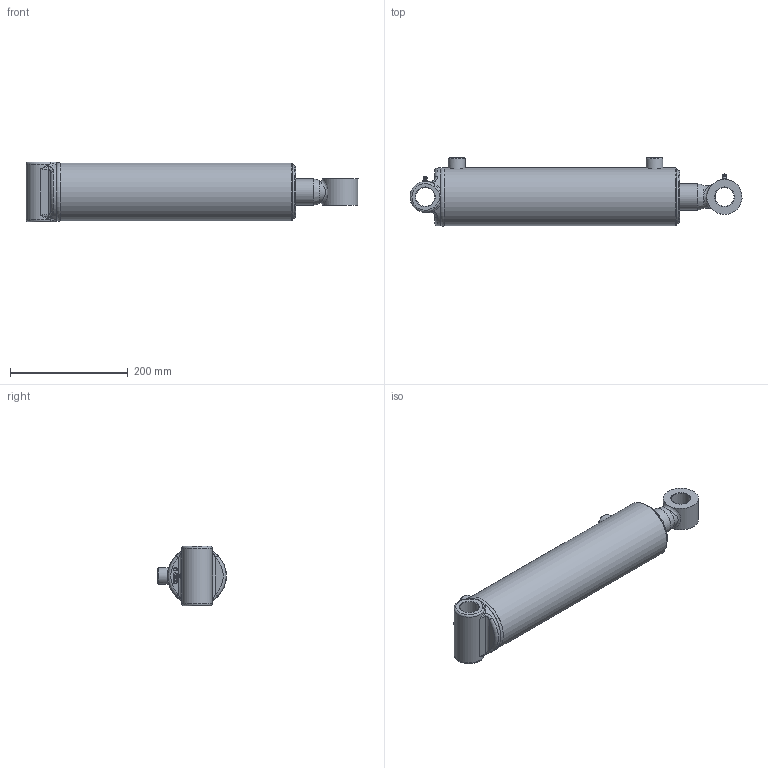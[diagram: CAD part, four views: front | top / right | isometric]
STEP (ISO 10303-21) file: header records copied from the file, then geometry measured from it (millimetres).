
FILE_DESCRIPTION(/* description */ ('Ø3.50 X 12.00 DA'),/* implementation_level */ '2;1');
FILE_NAME(/* name */ 'T:\Aces\Jobs\cc1905d3a0f6427f82c4c240872a015a\result.stp',/* time_stamp */ '2022-04-28T14:24:39+00:00',/* author */ (''),/* organization */ ('PRINCE MANUFACTURING'),/* preprocessor_version */ 'ST-DEVELOPER v18.1',/* originating_system */ 'Autodesk Inventor 2022',/* authorisation */ '');
FILE_SCHEMA (('AUTOMOTIVE_DESIGN { 1 0 10303 214 3 1 1 }'));
Length unit declared in the file: inch
Products named in the file (21): PC3512017A00-200XYXA; 0617-XYSF000-15570; 0517-T-15570; 161700179; 200015603; 06Weld1_C360; 0717-P-100; 220000210; 0817-G-175; 230025105; 230025005; 240000022; 240061338; 240000338; 0210A-HAW5-17687XA; 0110A-HAW5-17687; 210600529; 02Weld_C360; 240020007; 250014175; 270010020
Assembly tree (22 placements, depth 3):
  PC3512017A00-200XYXA
    0617-XYSF000-15570
      0517-T-15570
      161700179
      200015603  x2
      06Weld1_C360
    0717-P-100
    220000210
    0817-G-175
    230025105
    230025005
    240000022
    240061338
    240000338
    0210A-HAW5-17687XA
      0110A-HAW5-17687
      210600529
      02Weld_C360
    240020007
    250014175
    270010020  x2
Bounding box: 563.52 x 116.74 x 101.6 mm (x, y, z)
Volume: 1877892.5 mm3; surface area: 484954.9 mm2
Topology: 26 solids, 26 shells, 536 faces, 1281 edges, 823 vertices
Faces by surface type: plane 144, bspline 128, torus 89, cylinder 87, cone 84, sphere 4
Full cylindrical faces by diameter (mm): 2.143 x4, 3.175 x1, 5.359 x2, 6.35 x2, 9.525 x2, 12.649 x1, 12.7 x1, 12.725 x1, 17.323 x2, 23.444 x1, 25.349 x1, 25.476 x1, 27.965 x1, 28.575 x2, 32.131 x2, 44.45 x1, 44.526 x2, 45.644 x2, 46.482 x1, 46.838 x1, 51.613 x1, 52.807 x1, 54 x1, 55.626 x2, 57.15 x2, 61.976 x1, 69.85 x2, 79.477 x2, 80.213 x2, 83.82 x1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
Entity records: 29462 total; most frequent: CARTESIAN_POINT 17326, ORIENTED_EDGE 2352, DIRECTION 2142, EDGE_CURVE 1176, AXIS2_PLACEMENT_3D 908, VERTEX_POINT 762, EDGE_LOOP 572, FACE_OUTER_BOUND 492
